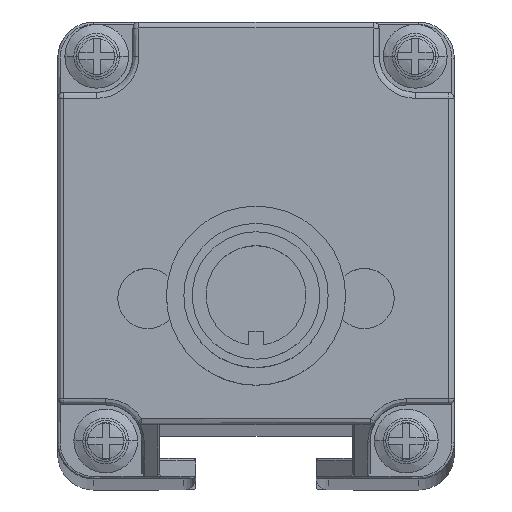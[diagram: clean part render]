
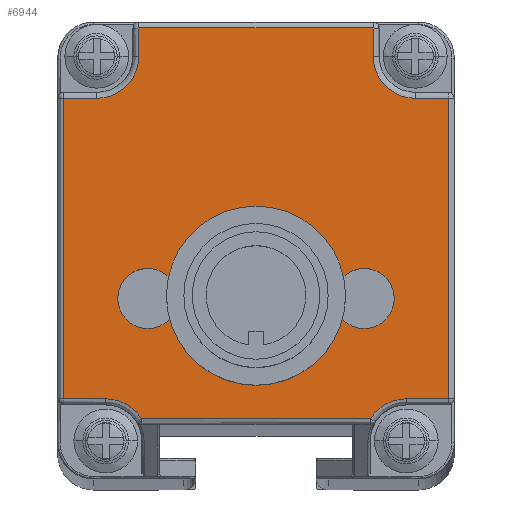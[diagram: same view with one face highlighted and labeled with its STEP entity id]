
A CAD part, top view. The second image highlights one B-rep face of the part: STEP entity #6944.
In plain terms, the highlighted planar face has unit normal (0, 0, 1).
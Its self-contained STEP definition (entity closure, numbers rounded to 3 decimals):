
#2821=CARTESIAN_POINT('',(-11.85,-19.904,
405.276));
#2822=DIRECTION('',(0.,0.,1.));
#2823=DIRECTION('',(0.849,0.528,0.));
#2824=AXIS2_PLACEMENT_3D('',#2821,#2822,#2823);
#2826=CARTESIAN_POINT('',(-12.6,12.094,405.276));
#2827=DIRECTION('',(0.,0.,1.));
#2828=DIRECTION('',(0.,-1.,0.));
#2829=AXIS2_PLACEMENT_3D('',#2826,#2827,#2828);
#2831=CARTESIAN_POINT('',(13.9,12.094,405.276));
#2832=DIRECTION('',(0.,0.,1.));
#2833=DIRECTION('',(-1.,0.,0.));
#2834=AXIS2_PLACEMENT_3D('',#2831,#2832,#2833);
#2836=CARTESIAN_POINT('',(13.15,-19.904,405.276));
#2837=DIRECTION('',(0.,0.,1.));
#2838=DIRECTION('',(0.,1.,0.));
#2839=AXIS2_PLACEMENT_3D('',#2836,#2837,#2838);
#2841=CARTESIAN_POINT('',(9.65,-8.055,405.276));
#2842=DIRECTION('',(0.,0.,1.));
#2843=DIRECTION('',(1.,-0.007,0.));
#2844=AXIS2_PLACEMENT_3D('',#2841,#2842,#2843);
#2846=CARTESIAN_POINT('',(9.65,-8.055,405.276));
#2847=DIRECTION('',(0.,0.,1.));
#2848=DIRECTION('',(-1.,0.007,0.));
#2849=AXIS2_PLACEMENT_3D('',#2846,#2847,#2848);
#2851=CARTESIAN_POINT('',(-8.35,-8.054,
405.276));
#2852=DIRECTION('',(0.,0.,1.));
#2853=DIRECTION('',(1.,0.007,0.));
#2854=AXIS2_PLACEMENT_3D('',#2851,#2852,#2853);
#2856=CARTESIAN_POINT('',(-8.35,-8.054,
405.276));
#2857=DIRECTION('',(0.,0.,1.));
#2858=DIRECTION('',(-1.,-0.007,0.));
#2859=AXIS2_PLACEMENT_3D('',#2856,#2857,#2858);
#2861=CARTESIAN_POINT('',(0.65,-8.054,
405.276));
#2862=DIRECTION('',(0.,0.,1.));
#2863=DIRECTION('',(1.,0.,0.));
#2864=AXIS2_PLACEMENT_3D('',#2861,#2862,#2863);
#2866=CARTESIAN_POINT('',(0.65,-8.054,
405.276));
#2867=DIRECTION('',(0.,0.,1.));
#2868=DIRECTION('',(-1.,0.,0.));
#2869=AXIS2_PLACEMENT_3D('',#2866,#2867,#2868);
#3044=DIRECTION('',(1.,0.,0.));
#3045=VECTOR('',#3044,19.056);
#3046=CARTESIAN_POINT('',(-8.878,-18.056,
405.276));
#3047=LINE('',#3046,#3045);
#3632=DIRECTION('',(0.,1.,0.));
#3633=VECTOR('',#3632,2.35);
#3634=CARTESIAN_POINT('',(10.4,12.094,405.276));
#3635=LINE('',#3634,#3633);
#3655=DIRECTION('',(-1.,0.,0.));
#3656=VECTOR('',#3655,19.5);
#3657=CARTESIAN_POINT('',(10.4,14.444,405.276));
#3658=LINE('',#3657,#3656);
#3679=DIRECTION('',(0.,-1.,0.));
#3680=VECTOR('',#3679,2.35);
#3681=CARTESIAN_POINT('',(-9.1,14.444,405.276));
#3682=LINE('',#3681,#3680);
#3706=DIRECTION('',(-1.,0.,0.));
#3707=VECTOR('',#3706,2.75);
#3708=CARTESIAN_POINT('',(-12.6,8.594,405.276));
#3709=LINE('',#3708,#3707);
#3879=DIRECTION('',(0.,-1.,0.));
#3880=VECTOR('',#3879,24.998);
#3881=CARTESIAN_POINT('',(-15.35,8.594,405.276));
#3882=LINE('',#3881,#3880);
#3918=DIRECTION('',(1.,0.,0.));
#3919=VECTOR('',#3918,3.5);
#3920=CARTESIAN_POINT('',(-15.35,-16.404,
405.276));
#3921=LINE('',#3920,#3919);
#4186=DIRECTION('',(-1.,0.,0.));
#4187=VECTOR('',#4186,2.75);
#4188=CARTESIAN_POINT('',(16.65,8.594,405.276));
#4189=LINE('',#4188,#4187);
#4245=DIRECTION('',(0.,1.,0.));
#4246=VECTOR('',#4245,24.998);
#4247=CARTESIAN_POINT('',(16.65,-16.404,405.276));
#4248=LINE('',#4247,#4246);
#4268=DIRECTION('',(1.,0.,0.));
#4269=VECTOR('',#4268,3.5);
#4270=CARTESIAN_POINT('',(13.15,-16.404,405.276));
#4271=LINE('',#4270,#4269);
#6011=CARTESIAN_POINT('',(12.15,-8.072,405.276));
#6012=VERTEX_POINT('',#6011);
#6013=CARTESIAN_POINT('',(7.15,-8.039,405.276));
#6014=VERTEX_POINT('',#6013);
#6015=CARTESIAN_POINT('',(-8.878,-18.056,
405.276));
#6016=CARTESIAN_POINT('',(-11.85,-16.404,
405.276));
#6017=VERTEX_POINT('',#6015);
#6018=VERTEX_POINT('',#6016);
#6019=CARTESIAN_POINT('',(-15.35,-16.404,
405.276));
#6020=VERTEX_POINT('',#6019);
#6021=CARTESIAN_POINT('',(-15.35,8.594,405.276));
#6022=VERTEX_POINT('',#6021);
#6023=CARTESIAN_POINT('',(-12.6,8.594,405.276));
#6024=VERTEX_POINT('',#6023);
#6025=CARTESIAN_POINT('',(-9.1,12.094,405.276));
#6026=VERTEX_POINT('',#6025);
#6027=CARTESIAN_POINT('',(-9.1,14.444,405.276));
#6028=VERTEX_POINT('',#6027);
#6029=CARTESIAN_POINT('',(10.4,14.444,405.276));
#6030=VERTEX_POINT('',#6029);
#6031=CARTESIAN_POINT('',(10.4,12.094,405.276));
#6032=VERTEX_POINT('',#6031);
#6033=CARTESIAN_POINT('',(13.9,8.594,405.276));
#6034=VERTEX_POINT('',#6033);
#6035=CARTESIAN_POINT('',(16.65,8.594,405.276));
#6036=VERTEX_POINT('',#6035);
#6037=CARTESIAN_POINT('',(16.65,-16.404,405.276));
#6038=VERTEX_POINT('',#6037);
#6039=CARTESIAN_POINT('',(13.15,-16.404,405.276));
#6040=VERTEX_POINT('',#6039);
#6041=CARTESIAN_POINT('',(10.178,-18.056,405.276));
#6042=VERTEX_POINT('',#6041);
#6043=CARTESIAN_POINT('',(-5.85,-8.037,
405.276));
#6044=CARTESIAN_POINT('',(-10.85,-8.07,
405.276));
#6045=VERTEX_POINT('',#6043);
#6046=VERTEX_POINT('',#6044);
#6047=CARTESIAN_POINT('',(3.65,-8.054,405.276));
#6048=CARTESIAN_POINT('',(-2.35,-8.054,
405.276));
#6049=VERTEX_POINT('',#6047);
#6050=VERTEX_POINT('',#6048);
#6893=CARTESIAN_POINT('',(0.65,0.944,
405.276));
#6894=DIRECTION('',(0.,0.,1.));
#6895=DIRECTION('',(1.,0.,0.));
#6896=AXIS2_PLACEMENT_3D('',#6893,#6894,#6895);
#6897=PLANE('',#6896);
#6899=ORIENTED_EDGE('',*,*,#6898,.T.);
#6901=ORIENTED_EDGE('',*,*,#6900,.F.);
#6903=ORIENTED_EDGE('',*,*,#6902,.F.);
#6905=ORIENTED_EDGE('',*,*,#6904,.F.);
#6907=ORIENTED_EDGE('',*,*,#6906,.T.);
#6909=ORIENTED_EDGE('',*,*,#6908,.F.);
#6911=ORIENTED_EDGE('',*,*,#6910,.F.);
#6913=ORIENTED_EDGE('',*,*,#6912,.F.);
#6915=ORIENTED_EDGE('',*,*,#6914,.T.);
#6917=ORIENTED_EDGE('',*,*,#6916,.F.);
#6919=ORIENTED_EDGE('',*,*,#6918,.F.);
#6921=ORIENTED_EDGE('',*,*,#6920,.F.);
#6923=ORIENTED_EDGE('',*,*,#6922,.T.);
#6925=ORIENTED_EDGE('',*,*,#6924,.F.);
#6926=EDGE_LOOP('',(#6899,#6901,#6903,#6905,#6907,#6909,#6911,#6913,#6915,#6917,
#6919,#6921,#6923,#6925));
#6927=FACE_OUTER_BOUND('',#6926,.F.);
#6928=ORIENTED_EDGE('',*,*,#6880,.T.);
#6929=ORIENTED_EDGE('',*,*,#6841,.T.);
#6930=EDGE_LOOP('',(#6928,#6929));
#6931=FACE_BOUND('',#6930,.F.);
#6933=ORIENTED_EDGE('',*,*,#6932,.T.);
#6935=ORIENTED_EDGE('',*,*,#6934,.T.);
#6936=EDGE_LOOP('',(#6933,#6935));
#6937=FACE_BOUND('',#6936,.F.);
#6939=ORIENTED_EDGE('',*,*,#6938,.T.);
#6941=ORIENTED_EDGE('',*,*,#6940,.T.);
#6942=EDGE_LOOP('',(#6939,#6941));
#6943=FACE_BOUND('',#6942,.F.);
#2825=CIRCLE('',#2824,3.5);
#2830=CIRCLE('',#2829,3.5);
#2835=CIRCLE('',#2834,3.5);
#2840=CIRCLE('',#2839,3.5);
#2845=CIRCLE('',#2844,2.5);
#2850=CIRCLE('',#2849,2.5);
#2855=CIRCLE('',#2854,2.5);
#2860=CIRCLE('',#2859,2.5);
#2865=CIRCLE('',#2864,3.);
#2870=CIRCLE('',#2869,3.);
#6841=EDGE_CURVE('',#6014,#6012,#2850,.T.);
#6880=EDGE_CURVE('',#6012,#6014,#2845,.T.);
#6898=EDGE_CURVE('',#6017,#6018,#2825,.T.);
#6900=EDGE_CURVE('',#6020,#6018,#3921,.T.);
#6902=EDGE_CURVE('',#6022,#6020,#3882,.T.);
#6904=EDGE_CURVE('',#6024,#6022,#3709,.T.);
#6906=EDGE_CURVE('',#6024,#6026,#2830,.T.);
#6908=EDGE_CURVE('',#6028,#6026,#3682,.T.);
#6910=EDGE_CURVE('',#6030,#6028,#3658,.T.);
#6912=EDGE_CURVE('',#6032,#6030,#3635,.T.);
#6914=EDGE_CURVE('',#6032,#6034,#2835,.T.);
#6916=EDGE_CURVE('',#6036,#6034,#4189,.T.);
#6918=EDGE_CURVE('',#6038,#6036,#4248,.T.);
#6920=EDGE_CURVE('',#6040,#6038,#4271,.T.);
#6922=EDGE_CURVE('',#6040,#6042,#2840,.T.);
#6924=EDGE_CURVE('',#6017,#6042,#3047,.T.);
#6932=EDGE_CURVE('',#6045,#6046,#2855,.T.);
#6934=EDGE_CURVE('',#6046,#6045,#2860,.T.);
#6938=EDGE_CURVE('',#6049,#6050,#2865,.T.);
#6940=EDGE_CURVE('',#6050,#6049,#2870,.T.);
#6944=ADVANCED_FACE('',(#6927,#6931,#6937,#6943),#6897,.T.);
